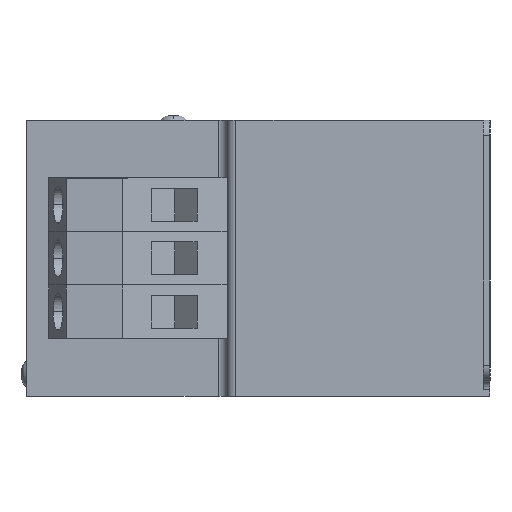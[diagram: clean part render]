
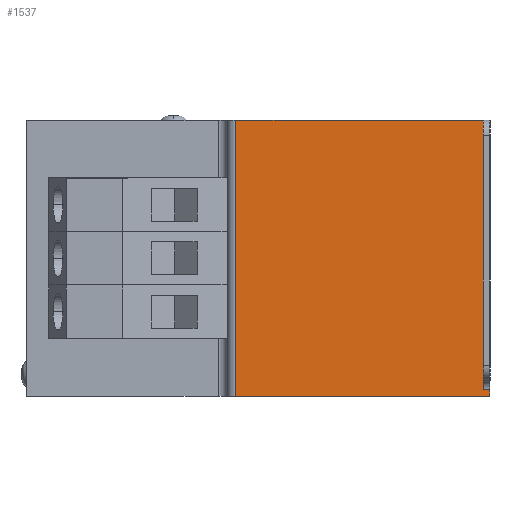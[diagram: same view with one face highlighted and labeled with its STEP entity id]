
A CAD part, left-side view. The second image highlights one B-rep face of the part: STEP entity #1537.
In plain terms, the highlighted planar face has unit normal (-1, 0, 0).
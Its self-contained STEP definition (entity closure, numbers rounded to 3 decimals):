
#97 = VERTEX_POINT ( 'NONE', #1648 ) ;
#124 = LINE ( 'NONE', #3473, #3800 ) ;
#144 = DIRECTION ( 'NONE',  ( 0., 1., 0. ) ) ;
#246 = LINE ( 'NONE', #6665, #1981 ) ;
#301 = EDGE_CURVE ( 'NONE', #97, #6445, #6821, .T. ) ;
#358 = VERTEX_POINT ( 'NONE', #1990 ) ;
#585 = DIRECTION ( 'NONE',  ( 1., 0., 0. ) ) ;
#773 = DIRECTION ( 'NONE',  ( 0., 0., -1. ) ) ;
#832 = EDGE_CURVE ( 'NONE', #3944, #97, #4243, .T. ) ;
#838 = ORIENTED_EDGE ( 'NONE', *, *, #6117, .T. ) ;
#899 = LINE ( 'NONE', #4635, #3488 ) ;
#952 = CARTESIAN_POINT ( 'NONE',  ( -75.5, 1.5, 31. ) ) ;
#1149 = VERTEX_POINT ( 'NONE', #2495 ) ;
#1335 = DIRECTION ( 'NONE',  ( 0., 0., 1. ) ) ;
#1537 = ADVANCED_FACE ( 'NONE', ( #4821 ), #4897, .F. ) ;
#1631 = DIRECTION ( 'NONE',  ( 0., 1., 0. ) ) ;
#1648 = CARTESIAN_POINT ( 'NONE',  ( -75.5, 57., 31. ) ) ;
#1649 = CARTESIAN_POINT ( 'NONE',  ( -75.5, 1.5, 31. ) ) ;
#1896 = EDGE_CURVE ( 'NONE', #358, #3944, #899, .T. ) ;
#1904 = ORIENTED_EDGE ( 'NONE', *, *, #832, .T. ) ;
#1981 = VECTOR ( 'NONE', #144, 1000. ) ;
#1990 = CARTESIAN_POINT ( 'NONE',  ( -75.5, 1.5, -29.5 ) ) ;
#2120 = DIRECTION ( 'NONE',  ( 0., 0., -1. ) ) ;
#2192 = CARTESIAN_POINT ( 'NONE',  ( -75.5, 0., -29.5 ) ) ;
#2495 = CARTESIAN_POINT ( 'NONE',  ( -75.5, 0., -31. ) ) ;
#3473 = CARTESIAN_POINT ( 'NONE',  ( -75.5, 0., -31. ) ) ;
#3487 = DIRECTION ( 'NONE',  ( 0., 0., -1. ) ) ;
#3488 = VECTOR ( 'NONE', #1335, 1000. ) ;
#3644 = ORIENTED_EDGE ( 'NONE', *, *, #5481, .F. ) ;
#3679 = AXIS2_PLACEMENT_3D ( 'NONE', #5454, #585, #2120 ) ;
#3784 = VECTOR ( 'NONE', #1631, 1000. ) ;
#3800 = VECTOR ( 'NONE', #773, 1000. ) ;
#3944 = VERTEX_POINT ( 'NONE', #1649 ) ;
#4190 = EDGE_LOOP ( 'NONE', ( #1904, #4793, #3644, #6820, #838, #6264 ) ) ;
#4243 = LINE ( 'NONE', #952, #3784 ) ;
#4594 = DIRECTION ( 'NONE',  ( 0., 1., 0. ) ) ;
#4635 = CARTESIAN_POINT ( 'NONE',  ( -75.5, 1.5, -31. ) ) ;
#4641 = VECTOR ( 'NONE', #4594, 1000. ) ;
#4666 = LINE ( 'NONE', #5259, #4641 ) ;
#4689 = CARTESIAN_POINT ( 'NONE',  ( -75.5, 57., -31. ) ) ;
#4793 = ORIENTED_EDGE ( 'NONE', *, *, #301, .T. ) ;
#4821 = FACE_OUTER_BOUND ( 'NONE', #4190, .T. ) ;
#4897 = PLANE ( 'NONE',  #3679 ) ;
#4968 = EDGE_CURVE ( 'NONE', #6968, #1149, #124, .T. ) ;
#5259 = CARTESIAN_POINT ( 'NONE',  ( -75.5, 1.5, -29.5 ) ) ;
#5454 = CARTESIAN_POINT ( 'NONE',  ( -75.5, 1.5, -31. ) ) ;
#5481 = EDGE_CURVE ( 'NONE', #1149, #6445, #246, .T. ) ;
#5785 = VECTOR ( 'NONE', #3487, 1000. ) ;
#5889 = CARTESIAN_POINT ( 'NONE',  ( -75.5, 57., -31. ) ) ;
#6117 = EDGE_CURVE ( 'NONE', #6968, #358, #4666, .T. ) ;
#6264 = ORIENTED_EDGE ( 'NONE', *, *, #1896, .T. ) ;
#6445 = VERTEX_POINT ( 'NONE', #5889 ) ;
#6665 = CARTESIAN_POINT ( 'NONE',  ( -75.5, 1.5, -31. ) ) ;
#6820 = ORIENTED_EDGE ( 'NONE', *, *, #4968, .F. ) ;
#6821 = LINE ( 'NONE', #4689, #5785 ) ;
#6968 = VERTEX_POINT ( 'NONE', #2192 ) ;
